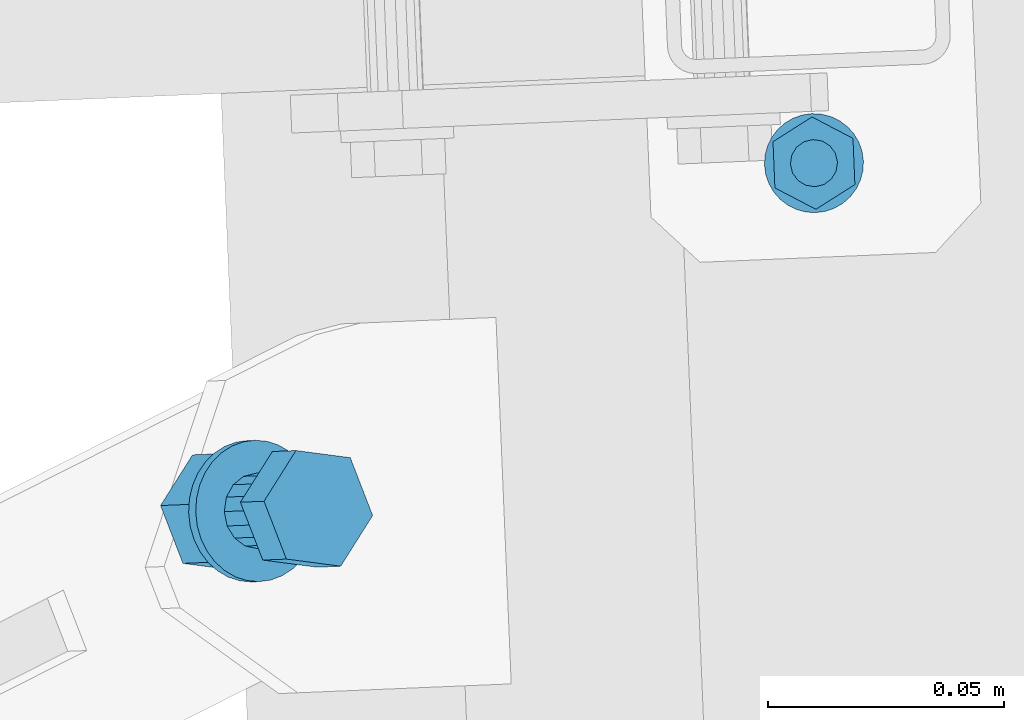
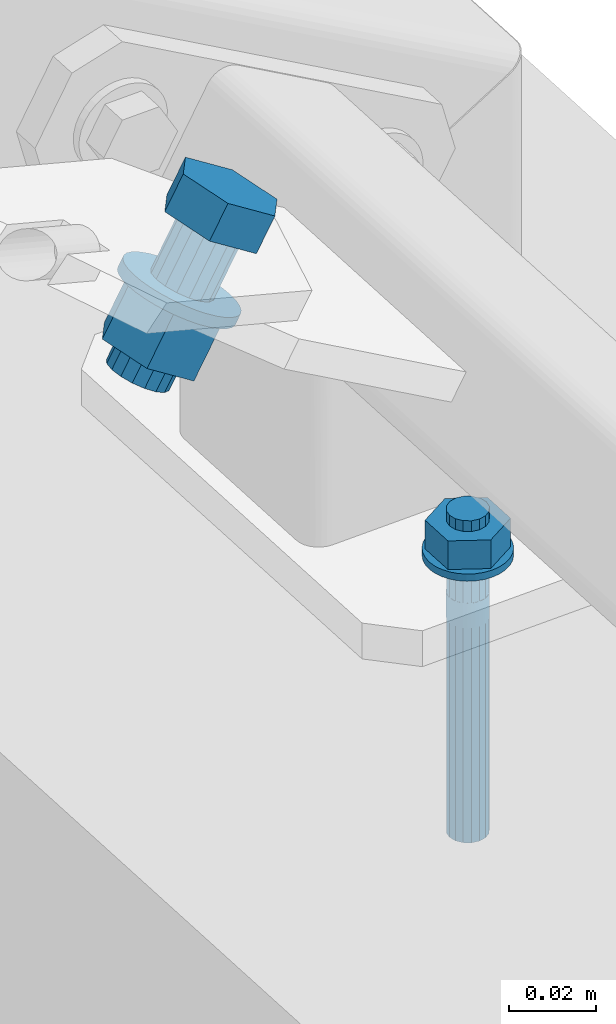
# One storey, part 242 of 288: 2 mechanical fasteners.
"""IFC2X3 building model written with IfcOpenShell, lengths in millimetres."""

from ifc_helpers import new_model, entity, si_unit, converted_unit, origin_with_axes, place, context, project, spatial, faceted_brep, element, save


model = new_model("IFC2X3")

# Units and contexts
model_context = context("Model", 3, precision=1e-09, world=origin_with_axes())
ifc_project = project(units=[si_unit("LENGTHUNIT", "METRE", prefix="MILLI"), si_unit("AREAUNIT", "SQUARE_METRE"), si_unit("VOLUMEUNIT", "CUBIC_METRE"), converted_unit("PLANEANGLEUNIT", "DEGREE", entity("IfcPlaneAngleMeasure", 0.01745329), si_unit("PLANEANGLEUNIT", "RADIAN"), dimensions=[0, 0, 0, 0, 0, 0, 0])], contexts=[model_context])

# Site, building, storey
site_placement = place(None, origin_with_axes())
site = spatial("IfcSite", under=ifc_project, at=site_placement, Name="Remont ?wietlik?w nad MC w NCPP w Opolu", CompositionType="ELEMENT")
building_placement = place(site_placement, origin_with_axes())
building = spatial("IfcBuilding", under=site, at=building_placement, Name="Konstrukcja 1", CompositionType="ELEMENT")
storey_placement = place(building_placement, origin_with_axes())
storey = spatial("IfcBuildingStorey", under=building, at=storey_placement, Name="Default Storey", CompositionType="ELEMENT", Elevation=0.0)

# Mechanical fasteners
mechanical_fastener_1_placement = place(None, origin_with_axes())
element("IfcMechanicalFastener", 1, at=mechanical_fastener_1_placement, inside=storey, ObjectType="Anchor_Bolt", NominalDiameter=10.0, NominalLength=90.0, context=model_context, shape_type="Brep", body=[
    faceted_brep([(1403.744770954, 11320.126084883, 12.000000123), (1403.744770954, 11320.126084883, 10.000000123), (1404.031712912, 11318.087823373, 10.000000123), (1404.031712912, 11318.087823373, 12.000000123), (1404.710786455, 11316.144706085, 10.000000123), (1404.710786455, 11316.144706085, 12.000000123), (1405.755895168, 11314.371405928, 10.000000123), (1405.755895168, 11314.371405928, 12.000000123), (1407.126876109, 11312.836069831, 10.000000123), (1407.126876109, 11312.836069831, 12.000000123), (1408.771043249, 11311.597699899, 10.000000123), (1408.771043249, 11311.597699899, 12.000000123), (1410.625212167, 11310.703885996, 10.000000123), (1410.625212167, 11310.703885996, 12.000000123), (1412.618128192, 11310.188976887, 10.000000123), (1412.618128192, 11310.188976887, 12.000000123), (1414.673204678, 11310.072760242, 10.000000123), (1414.673204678, 11310.072760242, 12.000000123), (1416.711466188, 11310.3597022, 10.000000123), (1416.711466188, 11310.3597022, 12.000000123), (1418.654583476, 11311.038775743, 10.000000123), (1418.654583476, 11311.038775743, 12.000000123), (1420.427883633, 11312.083884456, 10.000000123), (1420.427883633, 11312.083884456, 12.000000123), (1421.96321973, 11313.454865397, 10.000000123), (1421.96321973, 11313.454865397, 12.000000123), (1423.201589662, 11315.099032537, 10.000000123), (1423.201589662, 11315.099032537, 12.000000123), (1424.095403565, 11316.953201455, 10.000000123), (1424.095403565, 11316.953201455, 12.000000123), (1424.610312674, 11318.94611748, 10.000000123), (1424.610312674, 11318.94611748, 12.000000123), (1424.726529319, 11321.001193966, 10.000000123), (1424.726529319, 11321.001193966, 12.000000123), (1424.439587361, 11323.039455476, 10.000000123), (1424.439587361, 11323.039455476, 12.000000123), (1423.760513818, 11324.982572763, 10.000000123), (1423.760513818, 11324.982572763, 12.000000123), (1422.715405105, 11326.755872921, 10.000000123), (1422.715405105, 11326.755872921, 12.000000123), (1421.344424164, 11328.291209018, 10.000000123), (1421.344424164, 11328.291209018, 12.000000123), (1419.700257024, 11329.529578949, 10.000000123), (1419.700257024, 11329.529578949, 12.000000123), (1417.846088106, 11330.423392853, 10.000000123), (1417.846088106, 11330.423392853, 12.000000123), (1415.853172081, 11330.938301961, 10.000000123), (1415.853172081, 11330.938301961, 12.000000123), (1413.798095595, 11331.054518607, 10.000000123), (1413.798095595, 11331.054518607, 12.000000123), (1411.759834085, 11330.767576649, 10.000000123), (1411.759834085, 11330.767576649, 12.000000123), (1409.816716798, 11330.088503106, 10.000000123), (1409.816716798, 11330.088503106, 12.000000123), (1408.04341664, 11329.043394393, 10.000000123), (1408.04341664, 11329.043394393, 12.000000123), (1406.508080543, 11327.672413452, 10.000000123), (1406.508080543, 11327.672413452, 12.000000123), (1405.269710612, 11326.028246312, 10.000000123), (1405.269710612, 11326.028246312, 12.000000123), (1404.375896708, 11324.174077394, 10.000000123), (1404.375896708, 11324.174077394, 12.000000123), (1403.8609876, 11322.181161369, 10.000000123), (1403.8609876, 11322.181161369, 12.000000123)], [[[0, 1, 2, 3]], [[3, 2, 4, 5]], [[5, 4, 6, 7]], [[7, 6, 8, 9]], [[9, 8, 10, 11]], [[11, 10, 12, 13]], [[13, 12, 14, 15]], [[15, 14, 16, 17]], [[17, 16, 18, 19]], [[19, 18, 20, 21]], [[21, 20, 22, 23]], [[23, 22, 24, 25]], [[25, 24, 26, 27]], [[27, 26, 28, 29]], [[29, 28, 30, 31]], [[31, 30, 32, 33]], [[33, 32, 34, 35]], [[35, 34, 36, 37]], [[37, 36, 38, 39]], [[39, 38, 40, 41]], [[41, 40, 42, 43]], [[43, 42, 44, 45]], [[45, 44, 46, 47]], [[47, 46, 48, 49]], [[49, 48, 50, 51]], [[51, 50, 52, 53]], [[53, 52, 54, 55]], [[55, 54, 56, 57]], [[57, 56, 58, 59]], [[59, 58, 60, 61]], [[61, 60, 62, 63]], [[63, 62, 1, 0]], [[0, 3, 5, 7, 9, 11, 13, 15, 17, 19, 21, 23, 25, 27, 29, 31, 33, 35, 37, 39, 41, 43, 45, 47, 49, 51, 53, 55, 57, 59, 61, 63]], [[1, 62, 60, 58, 56, 54, 52, 50, 48, 46, 44, 42, 40, 38, 36, 34, 32, 30, 28, 26, 24, 22, 20, 18, 16, 14, 12, 10, 8, 6, 4, 2]]]),
    faceted_brep([(1422.919518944, 11316.021566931, 12.000000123), (1422.919518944, 11316.021566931, 20.000000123), (1414.644034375, 11310.772152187, 20.000000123), (1414.644034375, 11310.772152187, 12.000000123), (1405.960165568, 11315.314224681, 20.000000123), (1405.960165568, 11315.314224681, 12.000000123), (1405.551781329, 11325.105711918, 20.000000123), (1405.551781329, 11325.105711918, 12.000000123), (1413.827265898, 11330.355126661, 20.000000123), (1413.827265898, 11330.355126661, 12.000000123), (1422.511134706, 11325.813054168, 20.000000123), (1422.511134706, 11325.813054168, 12.000000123)], [[[0, 1, 2, 3]], [[3, 2, 4, 5]], [[5, 4, 6, 7]], [[7, 6, 8, 9]], [[9, 8, 10, 11]], [[11, 10, 1, 0]], [[4, 2, 1, 10, 8, 6]], [[0, 3, 5, 7, 9, 11]]]),
    faceted_brep([(1409.239993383, 11320.355280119, 23.000000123), (1409.239993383, 11320.355280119, 20.000000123), (1409.700000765, 11318.459385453, 20.000000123), (1409.700000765, 11318.459385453, 23.000000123), (1410.850519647, 11316.88384438, 20.000000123), (1410.850519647, 11316.88384438, 23.000000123), (1412.516393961, 11315.868518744, 20.000000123), (1412.516393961, 11315.868518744, 23.000000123), (1414.444009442, 11315.567982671, 20.000000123), (1414.444009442, 11315.567982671, 23.000000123), (1416.339904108, 11316.027990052, 20.000000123), (1416.339904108, 11316.027990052, 23.000000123), (1417.915445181, 11317.178508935, 20.000000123), (1417.915445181, 11317.178508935, 23.000000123), (1418.930770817, 11318.844383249, 20.000000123), (1418.930770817, 11318.844383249, 23.000000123), (1419.23130689, 11320.77199873, 20.000000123), (1419.23130689, 11320.77199873, 23.000000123), (1418.771299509, 11322.667893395, 20.000000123), (1418.771299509, 11322.667893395, 23.000000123), (1417.620780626, 11324.243434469, 20.000000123), (1417.620780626, 11324.243434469, 23.000000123), (1415.954906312, 11325.258760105, 20.000000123), (1415.954906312, 11325.258760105, 23.000000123), (1414.027290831, 11325.559296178, 20.000000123), (1414.027290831, 11325.559296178, 23.000000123), (1412.131396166, 11325.099288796, 20.000000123), (1412.131396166, 11325.099288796, 23.000000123), (1410.555855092, 11323.948769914, 20.000000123), (1410.555855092, 11323.948769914, 23.000000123), (1409.540529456, 11322.2828956, 20.000000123), (1409.540529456, 11322.2828956, 23.000000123)], [[[0, 1, 2, 3]], [[3, 2, 4, 5]], [[5, 4, 6, 7]], [[7, 6, 8, 9]], [[9, 8, 10, 11]], [[11, 10, 12, 13]], [[13, 12, 14, 15]], [[15, 14, 16, 17]], [[17, 16, 18, 19]], [[19, 18, 20, 21]], [[21, 20, 22, 23]], [[23, 22, 24, 25]], [[25, 24, 26, 27]], [[27, 26, 28, 29]], [[29, 28, 30, 31]], [[31, 30, 1, 0]], [[0, 3, 5, 7, 9, 11, 13, 15, 17, 19, 21, 23, 25, 27, 29, 31]], [[1, 30, 28, 26, 24, 22, 20, 18, 16, 14, 12, 10, 8, 6, 4, 2]]]),
    faceted_brep([(1409.239993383, 11320.355280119, 10.000000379), (1409.239993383, 11320.355280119, 1.23e-07), (1409.700000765, 11318.459385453, 1.23e-07), (1409.700000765, 11318.459385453, 10.000000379), (1410.850519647, 11316.88384438, 1.23e-07), (1410.850519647, 11316.88384438, 10.000000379), (1412.516393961, 11315.868518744, 1.23e-07), (1412.516393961, 11315.868518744, 10.000000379), (1414.444009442, 11315.567982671, 1.23e-07), (1414.444009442, 11315.567982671, 10.000000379), (1416.339904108, 11316.027990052, 1.23e-07), (1416.339904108, 11316.027990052, 10.000000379), (1417.915445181, 11317.178508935, 1.23e-07), (1417.915445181, 11317.178508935, 10.000000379), (1418.930770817, 11318.844383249, 1.23e-07), (1418.930770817, 11318.844383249, 10.000000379), (1419.23130689, 11320.77199873, 1.23e-07), (1419.23130689, 11320.77199873, 10.000000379), (1418.771299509, 11322.667893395, 1.23e-07), (1418.771299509, 11322.667893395, 10.000000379), (1417.620780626, 11324.243434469, 1.23e-07), (1417.620780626, 11324.243434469, 10.000000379), (1415.954906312, 11325.258760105, 1.23e-07), (1415.954906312, 11325.258760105, 10.000000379), (1414.027290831, 11325.559296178, 1.23e-07), (1414.027290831, 11325.559296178, 10.000000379), (1412.131396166, 11325.099288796, 1.23e-07), (1412.131396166, 11325.099288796, 10.000000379), (1410.555855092, 11323.948769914, 1.23e-07), (1410.555855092, 11323.948769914, 10.000000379), (1409.540529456, 11322.2828956, 1.23e-07), (1409.540529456, 11322.2828956, 10.000000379)], [[[0, 1, 2, 3]], [[3, 2, 4, 5]], [[5, 4, 6, 7]], [[7, 6, 8, 9]], [[9, 8, 10, 11]], [[11, 10, 12, 13]], [[13, 12, 14, 15]], [[15, 14, 16, 17]], [[17, 16, 18, 19]], [[19, 18, 20, 21]], [[21, 20, 22, 23]], [[23, 22, 24, 25]], [[25, 24, 26, 27]], [[27, 26, 28, 29]], [[29, 28, 30, 31]], [[31, 30, 1, 0]], [[0, 3, 5, 7, 9, 11, 13, 15, 17, 19, 21, 23, 25, 27, 29, 31]], [[1, 30, 28, 26, 24, 22, 20, 18, 16, 14, 12, 10, 8, 6, 4, 2]]]),
    faceted_brep([(1409.239993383, 11320.355280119, -1.32e-07), (1409.239993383, 11320.355280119, -6.999999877), (1409.376632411, 11319.3846794, -6.999999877), (1409.376632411, 11319.3846794, -1.32e-07), (1409.700000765, 11318.459385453, -6.999999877), (1409.700000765, 11318.459385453, -1.32e-07), (1410.19767158, 11317.614956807, -6.999999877), (1410.19767158, 11317.614956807, -1.32e-07), (1410.850519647, 11316.88384438, -6.999999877), (1410.850519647, 11316.88384438, -1.32e-07), (1411.633456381, 11316.294144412, -6.999999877), (1411.633456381, 11316.294144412, -1.32e-07), (1412.516393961, 11315.868518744, -6.999999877), (1412.516393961, 11315.868518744, -1.32e-07), (1413.465401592, 11315.623323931, -6.999999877), (1413.465401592, 11315.623323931, -1.32e-07), (1414.444009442, 11315.567982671, -6.999999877), (1414.444009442, 11315.567982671, -1.32e-07), (1415.414610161, 11315.704621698, -6.999999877), (1415.414610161, 11315.704621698, -1.32e-07), (1416.339904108, 11316.027990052, -6.999999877), (1416.339904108, 11316.027990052, -1.32e-07), (1417.184332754, 11316.525660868, -6.999999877), (1417.184332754, 11316.525660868, -1.32e-07), (1417.915445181, 11317.178508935, -6.999999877), (1417.915445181, 11317.178508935, -1.32e-07), (1418.505145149, 11317.961445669, -6.999999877), (1418.505145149, 11317.961445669, -1.32e-07), (1418.930770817, 11318.844383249, -6.999999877), (1418.930770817, 11318.844383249, -1.32e-07), (1419.17596563, 11319.793390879, -6.999999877), (1419.17596563, 11319.793390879, -1.32e-07), (1419.23130689, 11320.77199873, -6.999999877), (1419.23130689, 11320.77199873, -1.32e-07), (1419.094667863, 11321.742599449, -6.999999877), (1419.094667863, 11321.742599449, -1.32e-07), (1418.771299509, 11322.667893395, -6.999999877), (1418.771299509, 11322.667893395, -1.32e-07), (1418.273628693, 11323.512322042, -6.999999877), (1418.273628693, 11323.512322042, -1.32e-07), (1417.620780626, 11324.243434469, -6.999999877), (1417.620780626, 11324.243434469, -1.32e-07), (1416.837843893, 11324.833134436, -6.999999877), (1416.837843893, 11324.833134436, -1.32e-07), (1415.954906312, 11325.258760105, -6.999999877), (1415.954906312, 11325.258760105, -1.32e-07), (1415.005898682, 11325.503954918, -6.999999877), (1415.005898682, 11325.503954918, -1.32e-07), (1414.027290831, 11325.559296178, -6.999999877), (1414.027290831, 11325.559296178, -1.32e-07), (1413.056690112, 11325.42265715, -6.999999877), (1413.056690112, 11325.42265715, -1.32e-07), (1412.131396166, 11325.099288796, -6.999999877), (1412.131396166, 11325.099288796, -1.32e-07), (1411.286967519, 11324.601617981, -6.999999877), (1411.286967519, 11324.601617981, -1.32e-07), (1410.555855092, 11323.948769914, -6.999999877), (1410.555855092, 11323.948769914, -1.32e-07), (1409.966155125, 11323.16583318, -6.999999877), (1409.966155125, 11323.16583318, -1.32e-07), (1409.540529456, 11322.2828956, -6.999999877), (1409.540529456, 11322.2828956, -1.32e-07), (1409.295334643, 11321.333887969, -6.999999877), (1409.295334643, 11321.333887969, -1.32e-07)], [[[0, 1, 2, 3]], [[3, 2, 4, 5]], [[5, 4, 6, 7]], [[7, 6, 8, 9]], [[9, 8, 10, 11]], [[11, 10, 12, 13]], [[13, 12, 14, 15]], [[15, 14, 16, 17]], [[17, 16, 18, 19]], [[19, 18, 20, 21]], [[21, 20, 22, 23]], [[23, 22, 24, 25]], [[25, 24, 26, 27]], [[27, 26, 28, 29]], [[29, 28, 30, 31]], [[31, 30, 32, 33]], [[33, 32, 34, 35]], [[35, 34, 36, 37]], [[37, 36, 38, 39]], [[39, 38, 40, 41]], [[41, 40, 42, 43]], [[43, 42, 44, 45]], [[45, 44, 46, 47]], [[47, 46, 48, 49]], [[49, 48, 50, 51]], [[51, 50, 52, 53]], [[53, 52, 54, 55]], [[55, 54, 56, 57]], [[57, 56, 58, 59]], [[59, 58, 60, 61]], [[61, 60, 62, 63]], [[63, 62, 1, 0]], [[0, 3, 5, 7, 9, 11, 13, 15, 17, 19, 21, 23, 25, 27, 29, 31, 33, 35, 37, 39, 41, 43, 45, 47, 49, 51, 53, 55, 57, 59, 61, 63]], [[1, 62, 60, 58, 56, 54, 52, 50, 48, 46, 44, 42, 40, 38, 36, 34, 32, 30, 28, 26, 24, 22, 20, 18, 16, 14, 12, 10, 8, 6, 4, 2]]]),
    faceted_brep([(1409.239993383, 11320.355280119, -6.999999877), (1409.239993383, 11320.355280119, -66.999999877), (1409.700000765, 11318.459385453, -66.999999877), (1409.700000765, 11318.459385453, -6.999999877), (1410.850519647, 11316.88384438, -66.999999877), (1410.850519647, 11316.88384438, -6.999999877), (1412.516393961, 11315.868518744, -66.999999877), (1412.516393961, 11315.868518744, -6.999999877), (1414.444009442, 11315.567982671, -66.999999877), (1414.444009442, 11315.567982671, -6.999999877), (1416.339904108, 11316.027990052, -66.999999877), (1416.339904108, 11316.027990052, -6.999999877), (1417.915445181, 11317.178508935, -66.999999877), (1417.915445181, 11317.178508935, -6.999999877), (1418.930770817, 11318.844383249, -66.999999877), (1418.930770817, 11318.844383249, -6.999999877), (1419.23130689, 11320.77199873, -66.999999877), (1419.23130689, 11320.77199873, -6.999999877), (1418.771299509, 11322.667893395, -66.999999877), (1418.771299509, 11322.667893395, -6.999999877), (1417.620780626, 11324.243434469, -66.999999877), (1417.620780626, 11324.243434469, -6.999999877), (1415.954906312, 11325.258760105, -66.999999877), (1415.954906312, 11325.258760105, -6.999999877), (1414.027290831, 11325.559296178, -66.999999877), (1414.027290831, 11325.559296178, -6.999999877), (1412.131396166, 11325.099288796, -66.999999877), (1412.131396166, 11325.099288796, -6.999999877), (1410.555855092, 11323.948769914, -66.999999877), (1410.555855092, 11323.948769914, -6.999999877), (1409.540529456, 11322.2828956, -66.999999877), (1409.540529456, 11322.2828956, -6.999999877)], [[[0, 1, 2, 3]], [[3, 2, 4, 5]], [[5, 4, 6, 7]], [[7, 6, 8, 9]], [[9, 8, 10, 11]], [[11, 10, 12, 13]], [[13, 12, 14, 15]], [[15, 14, 16, 17]], [[17, 16, 18, 19]], [[19, 18, 20, 21]], [[21, 20, 22, 23]], [[23, 22, 24, 25]], [[25, 24, 26, 27]], [[27, 26, 28, 29]], [[29, 28, 30, 31]], [[31, 30, 1, 0]], [[0, 3, 5, 7, 9, 11, 13, 15, 17, 19, 21, 23, 25, 27, 29, 31]], [[1, 30, 28, 26, 24, 22, 20, 18, 16, 14, 12, 10, 8, 6, 4, 2]]]),
])
mechanical_fastener_2_placement = place(None, origin_with_axes())
element("IfcMechanicalFastener", 2, at=mechanical_fastener_2_placement, inside=storey, ObjectType="Bolt#1", NominalDiameter=16.0, NominalLength=40.0, context=model_context, shape_type="Brep", body=[
    faceted_brep([(1302.372456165, 11236.610043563, 198.310695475), (1297.364785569, 11236.401383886, 189.657389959), (1308.882324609, 11234.88549693, 183.028739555), (1313.889995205, 11235.094156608, 191.68204507), (1315.657314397, 11245.63347013, 178.848881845), (1320.664984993, 11245.842129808, 187.502187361), (1310.914765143, 11257.897330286, 181.297674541), (1315.922435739, 11258.105989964, 189.950980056), (1299.397226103, 11259.413217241, 187.926324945), (1304.404896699, 11259.621876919, 196.579630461), (1292.622236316, 11248.665244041, 192.106182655), (1297.629906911, 11248.873903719, 200.75948817)], [[[0, 1, 2, 3]], [[3, 2, 4, 5]], [[5, 4, 6, 7]], [[7, 6, 8, 9]], [[9, 8, 10, 11]], [[11, 10, 1, 0]], [[3, 5, 7, 9, 11, 0]], [[2, 1, 10, 8, 6, 4]]]),
    faceted_brep([(1302.444479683, 11250.003627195, 167.899730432), (1310.456752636, 11250.337482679, 181.745019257), (1311.061446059, 11247.287667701, 181.468624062), (1303.049173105, 11246.953812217, 167.623335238), (1310.612377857, 11244.216796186, 181.80254879), (1302.600104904, 11243.882940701, 167.957259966), (1309.177914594, 11241.592380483, 182.695956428), (1301.165641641, 11241.258524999, 168.850667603), (1306.976440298, 11239.813964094, 184.012833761), (1298.964167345, 11239.48010861, 170.167544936), (1304.343109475, 11239.152294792, 185.552698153), (1296.330836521, 11238.818439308, 171.707409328), (1301.67882287, 11239.708105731, 187.08111921), (1293.666549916, 11239.374250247, 173.235830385), (1299.389193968, 11241.396779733, 188.36540868), (1291.376921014, 11241.062924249, 174.520119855), (1297.822798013, 11243.96123149, 189.210045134), (1289.810525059, 11243.627376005, 175.364756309), (1297.21810459, 11247.011046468, 189.486440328), (1289.205831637, 11246.677190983, 175.641151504), (1297.667172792, 11250.081917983, 189.152515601), (1289.654899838, 11249.748062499, 175.307226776), (1299.101636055, 11252.706333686, 188.259107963), (1291.089363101, 11252.372478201, 174.413819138), (1301.30311035, 11254.484750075, 186.94223063), (1293.290837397, 11254.15089459, 173.096941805), (1303.936441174, 11255.146419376, 185.402366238), (1295.924168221, 11254.812563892, 171.557077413), (1306.600727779, 11254.590608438, 183.873945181), (1298.588454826, 11254.256752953, 170.028656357), (1308.890356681, 11252.901934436, 182.589655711), (1300.878083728, 11252.568078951, 168.744366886)], [[[0, 1, 2, 3]], [[3, 2, 4, 5]], [[5, 4, 6, 7]], [[7, 6, 8, 9]], [[9, 8, 10, 11]], [[11, 10, 12, 13]], [[13, 12, 14, 15]], [[15, 14, 16, 17]], [[17, 16, 18, 19]], [[19, 18, 20, 21]], [[21, 20, 22, 23]], [[23, 22, 24, 25]], [[25, 24, 26, 27]], [[27, 26, 28, 29]], [[29, 28, 30, 31]], [[31, 30, 1, 0]], [[2, 1, 30, 28, 26, 24, 22, 20, 18, 16, 14, 12, 10, 8, 6, 4]], [[31, 0, 3, 5, 7, 9, 11, 13, 15, 17, 19, 21, 23, 25, 27, 29]]]),
    faceted_brep([(1306.469533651, 11252.730639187, 162.037789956), (1307.97183483, 11252.79323709, 164.633781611), (1308.781885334, 11249.99513124, 164.232476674), (1307.279584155, 11249.932533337, 161.636485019), (1309.105634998, 11247.074834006, 164.115540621), (1307.603333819, 11247.012236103, 161.519548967), (1308.930642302, 11244.144570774, 164.28746724), (1307.428341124, 11244.08197287, 161.691475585), (1308.26363212, 11241.316949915, 164.741649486), (1306.761330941, 11241.254352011, 162.145657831), (1307.130237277, 11238.700635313, 165.460633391), (1305.627936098, 11238.63803741, 162.864641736), (1305.574013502, 11236.396170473, 166.416788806), (1304.071712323, 11236.333572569, 163.820797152), (1303.654765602, 11234.492114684, 167.573371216), (1302.152464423, 11234.42951678, 164.977379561), (1301.446249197, 11233.061639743, 168.885933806), (1299.943948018, 11232.99904184, 166.289942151), (1299.033336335, 11232.159718, 170.304035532), (1297.531035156, 11232.097120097, 167.708043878), (1296.508753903, 11231.821009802, 171.773179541), (1295.006452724, 11231.758411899, 169.177187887), (1293.969520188, 11232.058531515, 173.236907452), (1292.467219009, 11231.995933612, 170.640915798), (1291.513216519, 11232.863155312, 174.638969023), (1290.01091534, 11232.800557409, 172.042977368), (1289.234237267, 11234.203959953, 175.925483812), (1287.731936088, 11234.141362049, 173.329492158), (1287.220162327, 11236.029419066, 177.047011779), (1285.717861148, 11235.966821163, 174.451020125), (1285.54839147, 11238.269381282, 177.960453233), (1284.046090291, 11238.206783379, 175.364461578), (1284.283169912, 11240.83776611, 178.630705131), (1282.780868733, 11240.775168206, 176.034713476), (1283.473119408, 11243.63587196, 179.032010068), (1281.970818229, 11243.573274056, 176.436018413), (1283.149369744, 11246.556169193, 179.14894612), (1281.647068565, 11246.49357129, 176.552954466), (1283.324362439, 11249.486432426, 178.977019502), (1281.822061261, 11249.423834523, 176.381027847), (1283.991372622, 11252.314053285, 178.522837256), (1282.489071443, 11252.251455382, 175.926845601), (1285.124767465, 11254.930367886, 177.803853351), (1283.622466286, 11254.867769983, 175.207861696), (1286.68099124, 11257.234832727, 176.847697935), (1285.178690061, 11257.172234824, 174.251706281), (1288.60023914, 11259.138888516, 175.691115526), (1287.097937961, 11259.076290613, 173.095123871), (1290.808755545, 11260.569363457, 174.378552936), (1289.306454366, 11260.506765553, 171.782561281), (1293.221668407, 11261.471285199, 172.960451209), (1291.719367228, 11261.408687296, 170.364459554), (1295.746250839, 11261.809993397, 171.4913072), (1294.24394966, 11261.747395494, 168.895315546), (1298.285484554, 11261.572471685, 170.027579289), (1296.783183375, 11261.509873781, 167.431587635), (1300.741788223, 11260.767847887, 168.625517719), (1299.239487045, 11260.705249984, 166.029526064), (1303.020767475, 11259.427043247, 167.339002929), (1301.518466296, 11259.364445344, 164.743011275), (1305.034842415, 11257.601584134, 166.217474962), (1303.532541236, 11257.53898623, 163.621483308), (1306.706613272, 11255.361621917, 165.304033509), (1305.204312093, 11255.299024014, 162.708041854)], [[[0, 1, 2, 3]], [[3, 2, 4, 5]], [[5, 4, 6, 7]], [[7, 6, 8, 9]], [[9, 8, 10, 11]], [[11, 10, 12, 13]], [[13, 12, 14, 15]], [[15, 14, 16, 17]], [[17, 16, 18, 19]], [[19, 18, 20, 21]], [[21, 20, 22, 23]], [[23, 22, 24, 25]], [[25, 24, 26, 27]], [[27, 26, 28, 29]], [[29, 28, 30, 31]], [[31, 30, 32, 33]], [[33, 32, 34, 35]], [[35, 34, 36, 37]], [[37, 36, 38, 39]], [[39, 38, 40, 41]], [[41, 40, 42, 43]], [[43, 42, 44, 45]], [[45, 44, 46, 47]], [[47, 46, 48, 49]], [[49, 48, 50, 51]], [[51, 50, 52, 53]], [[53, 52, 54, 55]], [[55, 54, 56, 57]], [[57, 56, 58, 59]], [[59, 58, 60, 61]], [[61, 60, 62, 63]], [[63, 62, 1, 0]], [[2, 1, 62, 60, 58, 56, 54, 52, 50, 48, 46, 44, 42, 40, 38, 36, 34, 32, 30, 28, 26, 24, 22, 20, 18, 16, 14, 12, 10, 8, 6, 4]], [[63, 0, 3, 5, 7, 9, 11, 13, 15, 17, 19, 21, 23, 25, 27, 29, 31, 33, 35, 37, 39, 41, 43, 45, 47, 49, 51, 53, 55, 57, 59, 61]]]),
    faceted_brep([(1287.850211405, 11236.004930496, 173.216109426), (1280.438858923, 11235.696114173, 160.409217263), (1291.956397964, 11234.180227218, 153.780566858), (1299.367750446, 11234.489043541, 166.587459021), (1298.731387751, 11244.928200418, 149.600709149), (1306.142740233, 11245.237016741, 162.407601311), (1293.988838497, 11257.192060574, 152.049501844), (1301.400190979, 11257.500876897, 164.856394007), (1282.471299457, 11258.707947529, 158.678152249), (1289.882651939, 11259.016763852, 171.485044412), (1275.69630967, 11247.959974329, 162.858009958), (1283.107662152, 11248.268790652, 175.664902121)], [[[0, 1, 2, 3]], [[3, 2, 4, 5]], [[5, 4, 6, 7]], [[7, 6, 8, 9]], [[9, 8, 10, 11]], [[11, 10, 1, 0]], [[3, 5, 7, 9, 11, 0]], [[2, 1, 10, 8, 6, 4]]]),
    faceted_brep([(1290.426070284, 11249.502843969, 147.13179725), (1293.530826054, 11249.632212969, 152.49684667), (1294.135519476, 11246.582397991, 152.220451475), (1291.030763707, 11246.453028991, 146.855402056), (1293.686451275, 11243.511526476, 152.554376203), (1290.581695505, 11243.382157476, 147.189326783), (1292.251988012, 11240.887110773, 153.447783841), (1289.147232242, 11240.757741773, 148.082734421), (1290.050513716, 11239.108694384, 154.764661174), (1286.945757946, 11238.979325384, 149.399611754), (1287.417182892, 11238.447025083, 156.304525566), (1284.312427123, 11238.317656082, 150.939476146), (1284.752896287, 11239.002836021, 157.832946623), (1281.648140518, 11238.873467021, 152.467897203), (1282.463267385, 11240.691510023, 159.117236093), (1279.358511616, 11240.562141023, 153.752186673), (1280.89687143, 11243.25596178, 159.961872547), (1277.792115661, 11243.12659278, 154.596823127), (1280.292178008, 11246.305776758, 160.238267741), (1277.187422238, 11246.176407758, 154.873218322), (1280.741246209, 11249.376648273, 159.904343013), (1277.63649044, 11249.247279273, 154.539293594), (1282.175709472, 11252.001063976, 159.010935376), (1279.070953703, 11251.871694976, 153.645885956), (1284.377183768, 11253.779480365, 157.694058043), (1281.272427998, 11253.650111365, 152.329008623), (1287.010514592, 11254.441149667, 156.154193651), (1283.905758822, 11254.311780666, 150.789144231), (1289.674801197, 11253.885338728, 154.625772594), (1286.570045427, 11253.755969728, 149.260723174), (1291.964430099, 11252.196664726, 153.341483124), (1288.859674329, 11252.067295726, 147.976433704)], [[[0, 1, 2, 3]], [[3, 2, 4, 5]], [[5, 4, 6, 7]], [[7, 6, 8, 9]], [[9, 8, 10, 11]], [[11, 10, 12, 13]], [[13, 12, 14, 15]], [[15, 14, 16, 17]], [[17, 16, 18, 19]], [[19, 18, 20, 21]], [[21, 20, 22, 23]], [[23, 22, 24, 25]], [[25, 24, 26, 27]], [[27, 26, 28, 29]], [[29, 28, 30, 31]], [[31, 30, 1, 0]], [[2, 1, 30, 28, 26, 24, 22, 20, 18, 16, 14, 12, 10, 8, 6, 4]], [[31, 0, 3, 5, 7, 9, 11, 13, 15, 17, 19, 21, 23, 25, 27, 29]]]),
])

save(model, "model.ifc")
